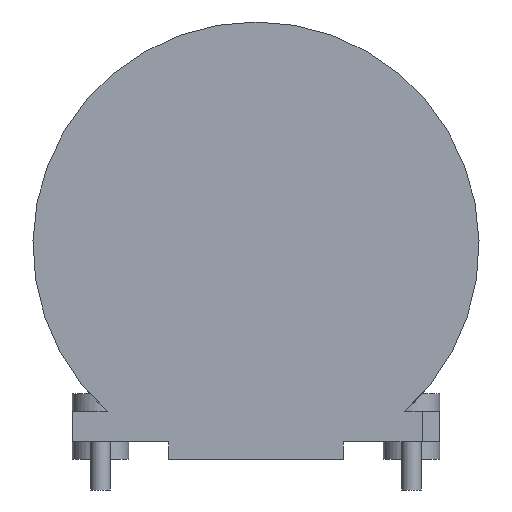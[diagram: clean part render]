
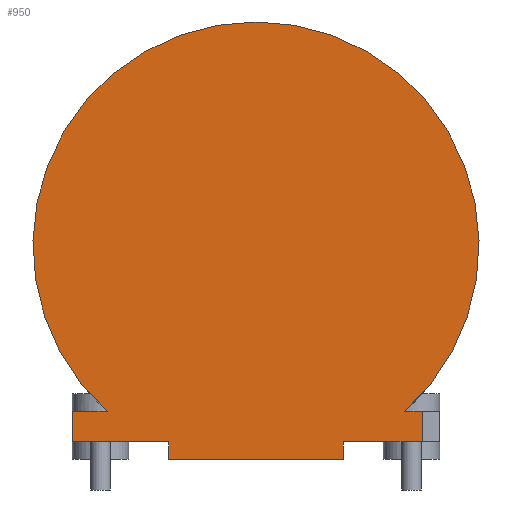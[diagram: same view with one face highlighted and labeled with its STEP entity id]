
A CAD part, front view. The second image highlights one B-rep face of the part: STEP entity #950.
In plain terms, the highlighted planar face has unit normal (0, -1, 0).
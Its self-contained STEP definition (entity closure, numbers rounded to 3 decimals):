
#40=CIRCLE('',#1016,25.5);
#65=FACE_OUTER_BOUND('',#122,.T.);
#122=EDGE_LOOP('',(#635,#636,#637,#638,#639,#640,#641,#642,#643,#644));
#193=LINE('',#1375,#300);
#194=LINE('',#1378,#301);
#195=LINE('',#1382,#302);
#196=LINE('',#1384,#303);
#197=LINE('',#1386,#304);
#198=LINE('',#1388,#305);
#199=LINE('',#1390,#306);
#200=LINE('',#1392,#307);
#201=LINE('',#1393,#308);
#300=VECTOR('',#1102,10.);
#301=VECTOR('',#1105,10.);
#302=VECTOR('',#1108,10.);
#303=VECTOR('',#1109,10.);
#304=VECTOR('',#1110,10.);
#305=VECTOR('',#1111,10.);
#306=VECTOR('',#1112,10.);
#307=VECTOR('',#1113,10.);
#308=VECTOR('',#1114,10.);
#404=VERTEX_POINT('',#1368);
#407=VERTEX_POINT('',#1373);
#408=VERTEX_POINT('',#1377);
#409=VERTEX_POINT('',#1379);
#410=VERTEX_POINT('',#1381);
#411=VERTEX_POINT('',#1383);
#412=VERTEX_POINT('',#1385);
#413=VERTEX_POINT('',#1387);
#414=VERTEX_POINT('',#1389);
#415=VERTEX_POINT('',#1391);
#499=EDGE_CURVE('',#407,#404,#193,.T.);
#500=EDGE_CURVE('',#408,#407,#194,.T.);
#501=EDGE_CURVE('',#408,#409,#40,.T.);
#502=EDGE_CURVE('',#410,#409,#195,.T.);
#503=EDGE_CURVE('',#411,#410,#196,.T.);
#504=EDGE_CURVE('',#411,#412,#197,.T.);
#505=EDGE_CURVE('',#412,#413,#198,.T.);
#506=EDGE_CURVE('',#414,#413,#199,.T.);
#507=EDGE_CURVE('',#415,#414,#200,.T.);
#508=EDGE_CURVE('',#415,#404,#201,.T.);
#635=ORIENTED_EDGE('',*,*,#499,.F.);
#636=ORIENTED_EDGE('',*,*,#500,.F.);
#637=ORIENTED_EDGE('',*,*,#501,.T.);
#638=ORIENTED_EDGE('',*,*,#502,.F.);
#639=ORIENTED_EDGE('',*,*,#503,.F.);
#640=ORIENTED_EDGE('',*,*,#504,.T.);
#641=ORIENTED_EDGE('',*,*,#505,.T.);
#642=ORIENTED_EDGE('',*,*,#506,.F.);
#643=ORIENTED_EDGE('',*,*,#507,.F.);
#644=ORIENTED_EDGE('',*,*,#508,.T.);
#902=PLANE('',#1015);
#950=ADVANCED_FACE('',(#65),#902,.T.);
#1015=AXIS2_PLACEMENT_3D('',#1376,#1103,#1104);
#1016=AXIS2_PLACEMENT_3D('',#1380,#1106,#1107);
#1102=DIRECTION('',(0.,0.,-1.));
#1103=DIRECTION('center_axis',(0.,-1.,0.));
#1104=DIRECTION('ref_axis',(1.,0.,0.));
#1105=DIRECTION('',(1.,0.,0.));
#1106=DIRECTION('center_axis',(0.,-1.,0.));
#1107=DIRECTION('ref_axis',(0.667,0.,0.745));
#1108=DIRECTION('',(1.,0.,0.));
#1109=DIRECTION('',(0.,0.,1.));
#1110=DIRECTION('',(1.,0.,0.));
#1111=DIRECTION('',(0.,0.,-1.));
#1112=DIRECTION('',(-1.,0.,0.));
#1113=DIRECTION('',(0.,0.,-1.));
#1114=DIRECTION('',(1.,0.,0.));
#1368=CARTESIAN_POINT('',(19.,-13.5,0.));
#1373=CARTESIAN_POINT('',(19.,-13.5,3.5));
#1375=CARTESIAN_POINT('',(19.,-13.5,0.));
#1376=CARTESIAN_POINT('Origin',(-21.,-13.5,0.));
#1377=CARTESIAN_POINT('',(17.007,-13.5,3.5));
#1378=CARTESIAN_POINT('',(-21.,-13.5,3.5));
#1379=CARTESIAN_POINT('',(-17.007,-13.5,3.5));
#1380=CARTESIAN_POINT('Origin',(0.,-13.5,22.5));
#1381=CARTESIAN_POINT('',(-21.,-13.5,3.5));
#1382=CARTESIAN_POINT('',(-21.,-13.5,3.5));
#1383=CARTESIAN_POINT('',(-21.,-13.5,0.));
#1384=CARTESIAN_POINT('',(-21.,-13.5,0.));
#1385=CARTESIAN_POINT('',(-10.,-13.5,0.));
#1386=CARTESIAN_POINT('',(-21.,-13.5,0.));
#1387=CARTESIAN_POINT('',(-10.,-13.5,-2.));
#1388=CARTESIAN_POINT('',(-10.,-13.5,0.));
#1389=CARTESIAN_POINT('',(10.,-13.5,-2.));
#1390=CARTESIAN_POINT('',(-21.,-13.5,-2.));
#1391=CARTESIAN_POINT('',(10.,-13.5,0.));
#1392=CARTESIAN_POINT('',(10.,-13.5,0.));
#1393=CARTESIAN_POINT('',(-21.,-13.5,0.));
